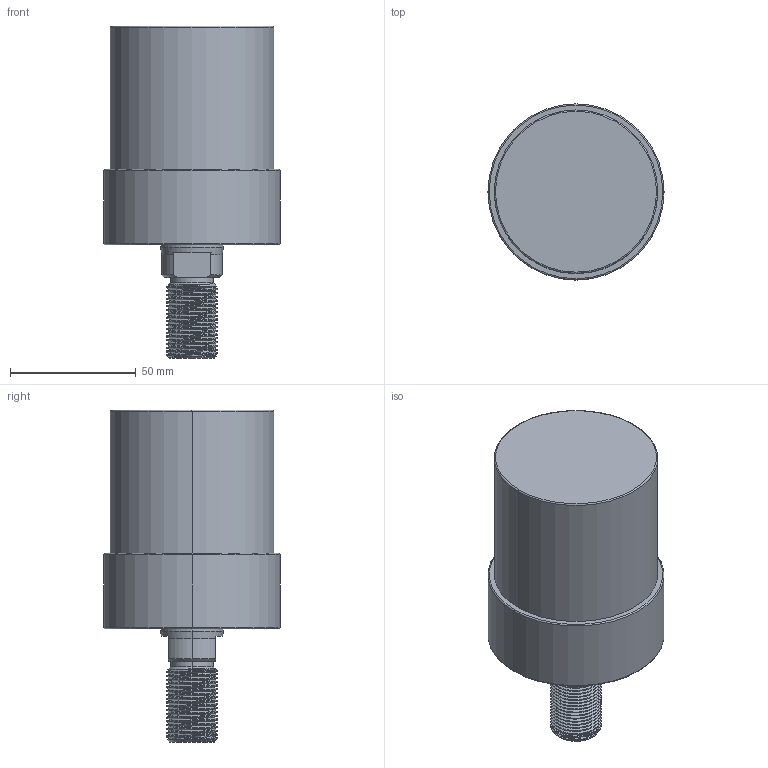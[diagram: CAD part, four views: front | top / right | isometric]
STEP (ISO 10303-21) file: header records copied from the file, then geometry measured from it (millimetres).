
FILE_DESCRIPTION (( 'STEP AP203' ), '1' );
FILE_NAME ('CLLU-065GT-040.STEP', '2020-01-16T01:06:23', ( '' ), ( '' ), 'SwSTEP 2.0', 'SolidWorks 2015', '' );
FILE_SCHEMA (( 'CONFIG_CONTROL_DESIGN' ));
Length unit declared in the file: millimetre
Products named in the file (1): CLLU-065GT-040
Bounding box: 70 x 70 x 132 mm (x, y, z)
Volume: 317584.9 mm3; surface area: 31099.7 mm2
Topology: 1 solids, 1 shells, 107 faces, 270 edges, 166 vertices
Faces by surface type: cylinder 61, cone 26, plane 12, torus 6, bspline 2
Entity records: 5333 total; most frequent: CARTESIAN_POINT 2932, ORIENTED_EDGE 524, DIRECTION 461, EDGE_CURVE 262, AXIS2_PLACEMENT_3D 184, VERTEX_POINT 166, EDGE_LOOP 116, FACE_OUTER_BOUND 107
